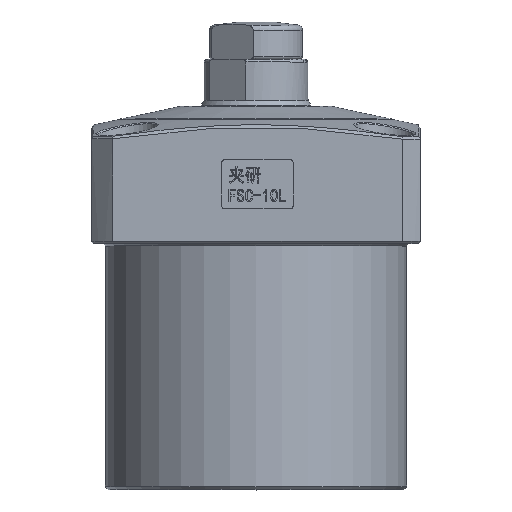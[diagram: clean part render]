
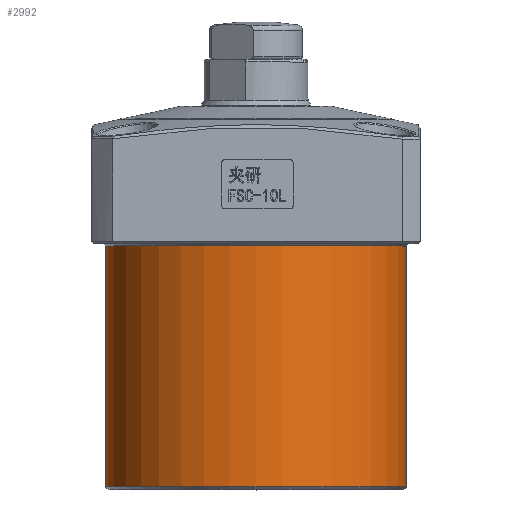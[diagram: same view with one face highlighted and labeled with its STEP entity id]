
A CAD part, top view. The second image highlights one B-rep face of the part: STEP entity #2992.
In plain terms, the highlighted cylindrical face has radius 27.5 mm (diameter 55 mm), a full revolution.
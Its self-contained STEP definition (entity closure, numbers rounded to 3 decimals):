
#2789=CYLINDRICAL_SURFACE('',#7467,27.5);
#2992=ADVANCED_FACE('',(#3493,#3494),#2789,.T.);
#3493=FACE_BOUND('',#3868,.T.);
#3494=FACE_BOUND('',#3869,.T.);
#3868=EDGE_LOOP('',(#4579));
#3869=EDGE_LOOP('',(#4580));
#4579=ORIENTED_EDGE('',*,*,#6464,.F.);
#4580=ORIENTED_EDGE('',*,*,#6463,.T.);
#5877=VERTEX_POINT('',#15644);
#5878=VERTEX_POINT('',#15647);
#6463=EDGE_CURVE('',#5877,#5877,#7132,.T.);
#6464=EDGE_CURVE('',#5878,#5878,#7133,.T.);
#7132=CIRCLE('',#7464,27.5);
#7133=CIRCLE('',#7466,27.5);
#7464=AXIS2_PLACEMENT_3D('',#15643,#8311,#8312);
#7466=AXIS2_PLACEMENT_3D('',#15646,#8315,#8316);
#7467=AXIS2_PLACEMENT_3D('',#15648,#8317,#8318);
#8311=DIRECTION('',(0.,-1.,0.));
#8312=DIRECTION('',(0.,0.,-1.));
#8315=DIRECTION('',(0.,-1.,0.));
#8316=DIRECTION('',(0.,0.,-1.));
#8317=DIRECTION('',(0.,-1.,0.));
#8318=DIRECTION('',(0.,0.,1.));
#15643=CARTESIAN_POINT('',(-11.404,-4.921,75.637));
#15644=CARTESIAN_POINT('',(-11.404,-4.921,48.137));
#15646=CARTESIAN_POINT('',(-11.404,-48.921,75.637));
#15647=CARTESIAN_POINT('',(-11.404,-48.921,48.137));
#15648=CARTESIAN_POINT('',(-11.404,-49.423,75.637));
